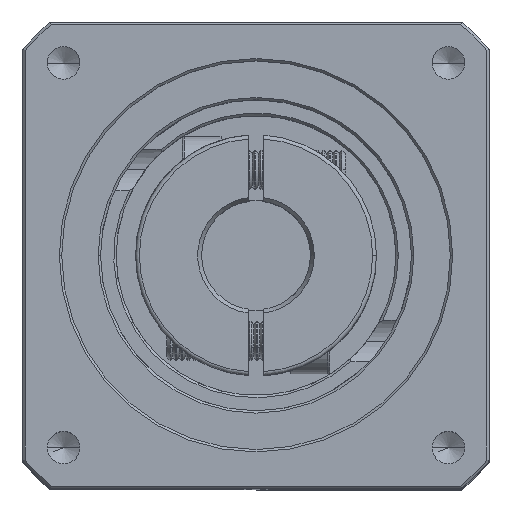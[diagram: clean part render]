
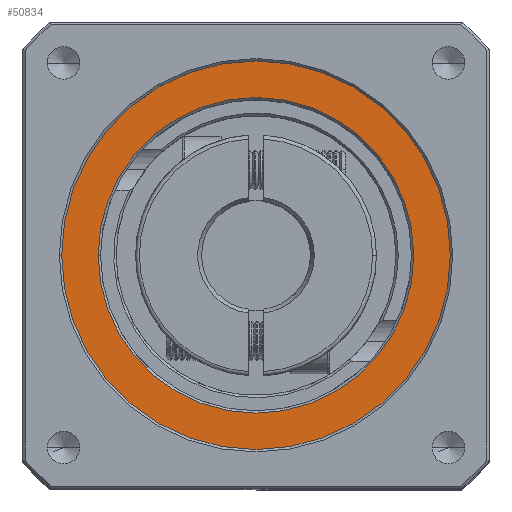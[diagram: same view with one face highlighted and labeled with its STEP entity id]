
A CAD part, top view. The second image highlights one B-rep face of the part: STEP entity #50834.
In plain terms, the highlighted planar face has unit normal (0, 0, 1).
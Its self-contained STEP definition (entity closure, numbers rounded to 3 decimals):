
#178 = DIRECTION ( 'NONE',  ( 1., 0., 0. ) ) ;
#1480 = FACE_BOUND ( 'NONE', #51052, .T. ) ;
#3206 = CARTESIAN_POINT ( 'NONE',  ( -87.157, 27.835, 27.243 ) ) ;
#4505 = DIRECTION ( 'NONE',  ( 1., 0., 0. ) ) ;
#6120 = DIRECTION ( 'NONE',  ( 1., 0., 0. ) ) ;
#6279 = PLANE ( 'NONE',  #63553 ) ;
#9861 = CIRCLE ( 'NONE', #42387, 25. ) ;
#12192 = CIRCLE ( 'NONE', #49927, 20.3 ) ;
#17785 = CIRCLE ( 'NONE', #27866, 25. ) ;
#18441 = EDGE_LOOP ( 'NONE', ( #48459, #51169 ) ) ;
#27866 = AXIS2_PLACEMENT_3D ( 'NONE', #85628, #46016, #6120 ) ;
#33094 = CARTESIAN_POINT ( 'NONE',  ( -62.157, 27.835, 27.243 ) ) ;
#33556 = DIRECTION ( 'NONE',  ( 0., 0., 1. ) ) ;
#34020 = EDGE_CURVE ( 'NONE', #81340, #74979, #85829, .T. ) ;
#37532 = EDGE_CURVE ( 'NONE', #58658, #73247, #17785, .T. ) ;
#39854 = DIRECTION ( 'NONE',  ( 1., 0., 0. ) ) ;
#40032 = DIRECTION ( 'NONE',  ( 0., 0., -1. ) ) ;
#41350 = ORIENTED_EDGE ( 'NONE', *, *, #62015, .T. ) ;
#42387 = AXIS2_PLACEMENT_3D ( 'NONE', #84043, #44379, #4505 ) ;
#44379 = DIRECTION ( 'NONE',  ( 0., 0., 1. ) ) ;
#46016 = DIRECTION ( 'NONE',  ( 0., 0., 1. ) ) ;
#46300 = ORIENTED_EDGE ( 'NONE', *, *, #34020, .T. ) ;
#48459 = ORIENTED_EDGE ( 'NONE', *, *, #75910, .T. ) ;
#49927 = AXIS2_PLACEMENT_3D ( 'NONE', #33094, #79667, #39854 ) ;
#50834 = ADVANCED_FACE ( 'NONE', ( #1480, #52570 ), #6279, .T. ) ;
#51052 = EDGE_LOOP ( 'NONE', ( #41350, #46300 ) ) ;
#51169 = ORIENTED_EDGE ( 'NONE', *, *, #37532, .T. ) ;
#52026 = CARTESIAN_POINT ( 'NONE',  ( -37.157, 27.835, 27.243 ) ) ;
#52570 = FACE_OUTER_BOUND ( 'NONE', #18441, .T. ) ;
#58658 = VERTEX_POINT ( 'NONE', #3206 ) ;
#62015 = EDGE_CURVE ( 'NONE', #74979, #81340, #12192, .T. ) ;
#63553 = AXIS2_PLACEMENT_3D ( 'NONE', #73527, #33556, #80081 ) ;
#63562 = CARTESIAN_POINT ( 'NONE',  ( -41.857, 27.835, 27.243 ) ) ;
#65091 = CARTESIAN_POINT ( 'NONE',  ( -82.457, 27.835, 27.243 ) ) ;
#65473 = AXIS2_PLACEMENT_3D ( 'NONE', #79847, #40032, #178 ) ;
#73247 = VERTEX_POINT ( 'NONE', #52026 ) ;
#73527 = CARTESIAN_POINT ( 'NONE',  ( -62.157, 27.835, 27.243 ) ) ;
#74979 = VERTEX_POINT ( 'NONE', #63562 ) ;
#75910 = EDGE_CURVE ( 'NONE', #73247, #58658, #9861, .T. ) ;
#79667 = DIRECTION ( 'NONE',  ( 0., 0., -1. ) ) ;
#79847 = CARTESIAN_POINT ( 'NONE',  ( -62.157, 27.835, 27.243 ) ) ;
#80081 = DIRECTION ( 'NONE',  ( 1., 0., 0. ) ) ;
#81340 = VERTEX_POINT ( 'NONE', #65091 ) ;
#84043 = CARTESIAN_POINT ( 'NONE',  ( -62.157, 27.835, 27.243 ) ) ;
#85628 = CARTESIAN_POINT ( 'NONE',  ( -62.157, 27.835, 27.243 ) ) ;
#85829 = CIRCLE ( 'NONE', #65473, 20.3 ) ;
